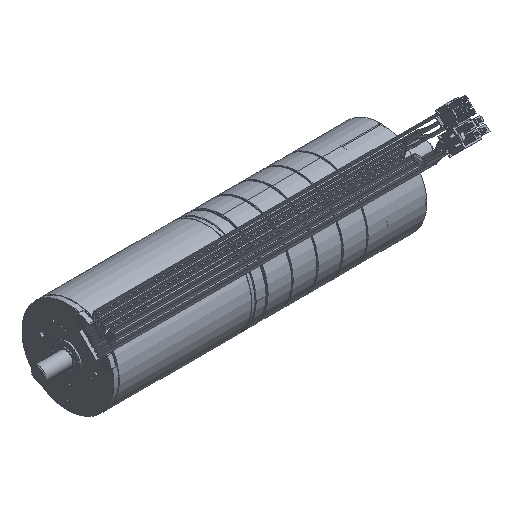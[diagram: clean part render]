
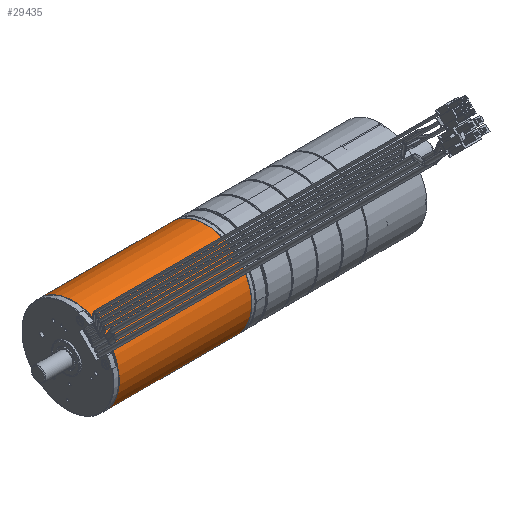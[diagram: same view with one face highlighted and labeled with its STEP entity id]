
A CAD part, isometric view. The second image highlights one B-rep face of the part: STEP entity #29435.
In plain terms, the highlighted cylindrical face has radius 26 mm (diameter 52 mm), a partial arc.
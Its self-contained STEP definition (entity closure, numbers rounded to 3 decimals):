
#5134 = CARTESIAN_POINT ( 'NONE',  ( 76.9, 0., -26. ) ) ;
#7806 = FACE_OUTER_BOUND ( 'NONE', #21192, .T. ) ;
#12294 = VECTOR ( 'NONE', #37440, 1000. ) ;
#12908 = EDGE_CURVE ( 'NONE', #27586, #35584, #36320, .T. ) ;
#14309 = DIRECTION ( 'NONE',  ( 1., 0., 0. ) ) ;
#14417 = AXIS2_PLACEMENT_3D ( 'NONE', #20884, #63675, #27180 ) ;
#16744 = CARTESIAN_POINT ( 'NONE',  ( 76.9, 0., 26. ) ) ;
#17341 = DIRECTION ( 'NONE',  ( 0., 0., -1. ) ) ;
#17858 = DIRECTION ( 'NONE',  ( 0., 0., -1. ) ) ;
#18259 = DIRECTION ( 'NONE',  ( -1., 0., 0. ) ) ;
#18332 = CARTESIAN_POINT ( 'NONE',  ( 76.9, 0., 0. ) ) ;
#20884 = CARTESIAN_POINT ( 'NONE',  ( 2.1, 0., 0. ) ) ;
#21192 = EDGE_LOOP ( 'NONE', ( #32583, #70777, #59126, #69873 ) ) ;
#22299 = EDGE_CURVE ( 'NONE', #38668, #31872, #50669, .T. ) ;
#27180 = DIRECTION ( 'NONE',  ( 0., 0., -1. ) ) ;
#27586 = VERTEX_POINT ( 'NONE', #5134 ) ;
#29435 = ADVANCED_FACE ( 'NONE', ( #7806 ), #31425, .T. ) ;
#29830 = EDGE_CURVE ( 'NONE', #31872, #27586, #76640, .T. ) ;
#31425 = CYLINDRICAL_SURFACE ( 'NONE', #47844, 26. ) ;
#31872 = VERTEX_POINT ( 'NONE', #56603 ) ;
#32583 = ORIENTED_EDGE ( 'NONE', *, *, #58562, .F. ) ;
#35584 = VERTEX_POINT ( 'NONE', #16744 ) ;
#36320 = CIRCLE ( 'NONE', #49882, 26. ) ;
#37440 = DIRECTION ( 'NONE',  ( 1., 0., 0. ) ) ;
#38668 = VERTEX_POINT ( 'NONE', #40120 ) ;
#40120 = CARTESIAN_POINT ( 'NONE',  ( 2.1, 0., 26. ) ) ;
#45412 = CARTESIAN_POINT ( 'NONE',  ( -25.84, 0., -26. ) ) ;
#47844 = AXIS2_PLACEMENT_3D ( 'NONE', #54397, #77655, #17341 ) ;
#49882 = AXIS2_PLACEMENT_3D ( 'NONE', #18332, #18259, #17858 ) ;
#50669 = CIRCLE ( 'NONE', #14417, 26. ) ;
#54397 = CARTESIAN_POINT ( 'NONE',  ( -25.84, 0., 0. ) ) ;
#56603 = CARTESIAN_POINT ( 'NONE',  ( 2.1, 0., -26. ) ) ;
#58562 = EDGE_CURVE ( 'NONE', #38668, #35584, #75350, .T. ) ;
#59126 = ORIENTED_EDGE ( 'NONE', *, *, #29830, .T. ) ;
#61001 = VECTOR ( 'NONE', #14309, 1000. ) ;
#63675 = DIRECTION ( 'NONE',  ( 1., 0., 0. ) ) ;
#67504 = CARTESIAN_POINT ( 'NONE',  ( -25.84, 0., 26. ) ) ;
#69873 = ORIENTED_EDGE ( 'NONE', *, *, #12908, .T. ) ;
#70777 = ORIENTED_EDGE ( 'NONE', *, *, #22299, .T. ) ;
#75350 = LINE ( 'NONE', #67504, #12294 ) ;
#76640 = LINE ( 'NONE', #45412, #61001 ) ;
#77655 = DIRECTION ( 'NONE',  ( 1., 0., 0. ) ) ;
